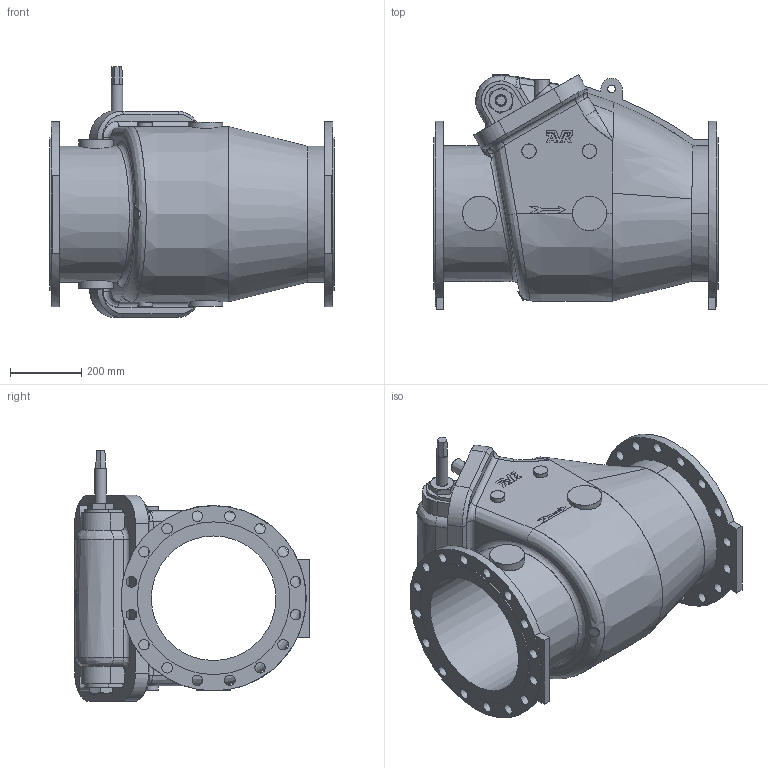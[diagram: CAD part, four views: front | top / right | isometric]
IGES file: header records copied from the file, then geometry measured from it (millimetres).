
Start section: SolidWorks IGES file using analytic representation for surfaces
Global section: file name: C:\Users\skch\Desktop\41350360180166\O_41_39_DN350_01.IGS; native system: SolidWorks 2012; preprocessor: SolidWorks 2012; author: skch; date: 150407.102225; units: millimetre
Bounding box: 800 x 661.26 x 705 mm (x, y, z)
Surface area: 3018622.4 mm2 (no closed solid volume)
Topology: 0 solids, 0 shells, 409 faces, 3217 edges, 4081 vertices
Faces by surface type: bspline 286, revolution 123
